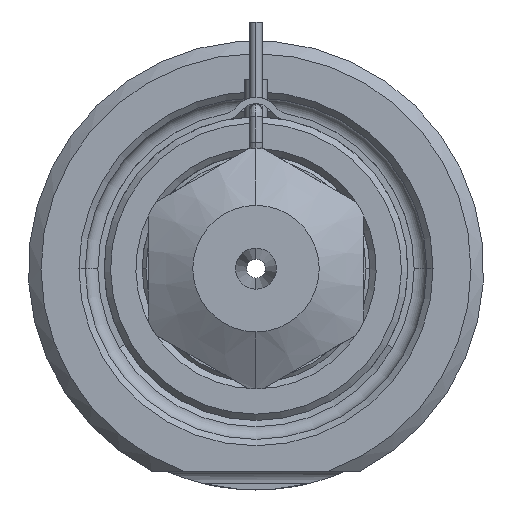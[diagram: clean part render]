
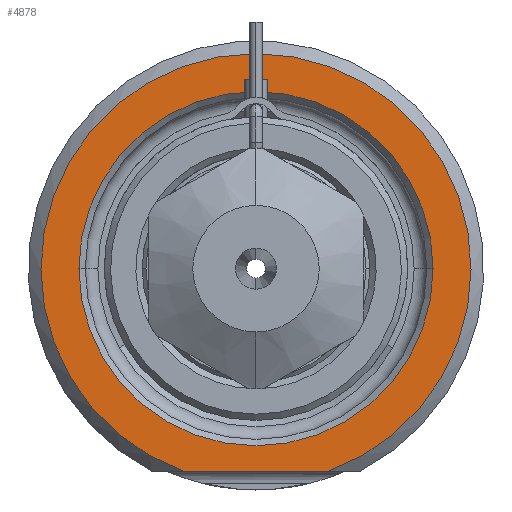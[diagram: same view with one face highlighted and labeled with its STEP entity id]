
A CAD part, front view. The second image highlights one B-rep face of the part: STEP entity #4878.
In plain terms, the highlighted planar face has unit normal (0, -1, 0).
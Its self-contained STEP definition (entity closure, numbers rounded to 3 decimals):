
#1476=DIRECTION('',(1.,0.,0.));
#1477=VECTOR('',#1476,11.489);
#1478=CARTESIAN_POINT('',(-5.745,0.,-16.));
#1479=LINE('',#1478,#1477);
#1480=CARTESIAN_POINT('',(0.,0.,0.));
#1481=DIRECTION('',(0.,1.,0.));
#1482=DIRECTION('',(-1.,0.,0.));
#1483=AXIS2_PLACEMENT_3D('',#1480,#1481,#1482);
#1485=CARTESIAN_POINT('',(0.,0.,0.));
#1486=DIRECTION('',(0.,1.,0.));
#1487=DIRECTION('',(1.,0.,0.));
#1488=AXIS2_PLACEMENT_3D('',#1485,#1486,#1487);
#1592=CARTESIAN_POINT('',(0.,0.,0.));
#1593=DIRECTION('',(0.,-1.,0.));
#1594=DIRECTION('',(0.338,0.,-0.941));
#1595=AXIS2_PLACEMENT_3D('',#1592,#1593,#1594);
#2531=CARTESIAN_POINT('',(-14.,0.,0.));
#2532=CARTESIAN_POINT('',(14.,0.,0.));
#2533=VERTEX_POINT('',#2531);
#2534=VERTEX_POINT('',#2532);
#2581=CARTESIAN_POINT('',(-5.745,0.,-16.));
#2582=CARTESIAN_POINT('',(5.745,0.,-16.));
#2583=VERTEX_POINT('',#2581);
#2584=VERTEX_POINT('',#2582);
#4862=CARTESIAN_POINT('',(0.,0.,0.));
#4863=DIRECTION('',(0.,-1.,0.));
#4864=DIRECTION('',(1.,0.,0.));
#4865=AXIS2_PLACEMENT_3D('',#4862,#4863,#4864);
#4866=PLANE('',#4865);
#4868=ORIENTED_EDGE('',*,*,#4867,.F.);
#4870=ORIENTED_EDGE('',*,*,#4869,.F.);
#4871=EDGE_LOOP('',(#4868,#4870));
#4872=FACE_OUTER_BOUND('',#4871,.F.);
#4874=ORIENTED_EDGE('',*,*,#4873,.F.);
#4875=ORIENTED_EDGE('',*,*,#4852,.F.);
#4876=EDGE_LOOP('',(#4874,#4875));
#4877=FACE_BOUND('',#4876,.F.);
#4878=ADVANCED_FACE('',(#4872,#4877),#4866,.T.);
#1484=CIRCLE('',#1483,14.);
#1489=CIRCLE('',#1488,14.);
#1596=CIRCLE('',#1595,17.);
#4852=EDGE_CURVE('',#2534,#2533,#1489,.T.);
#4867=EDGE_CURVE('',#2583,#2584,#1479,.T.);
#4869=EDGE_CURVE('',#2584,#2583,#1596,.T.);
#4873=EDGE_CURVE('',#2533,#2534,#1484,.T.);
